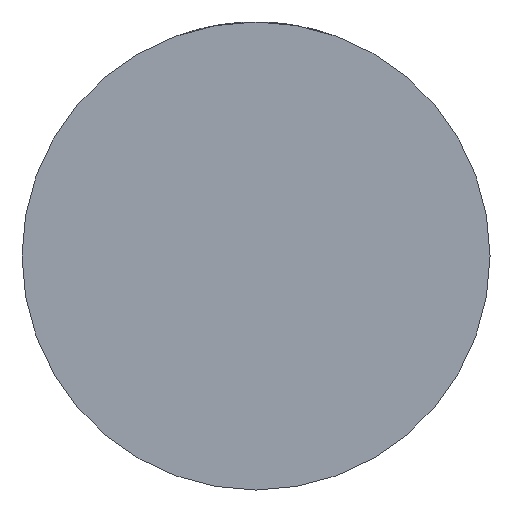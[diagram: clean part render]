
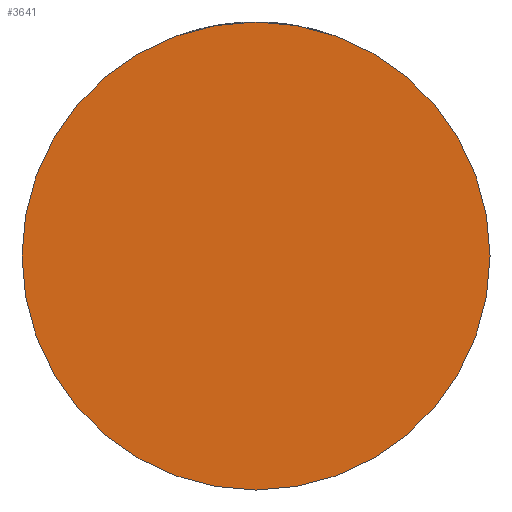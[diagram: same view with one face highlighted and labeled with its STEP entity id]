
A CAD part, front view. The second image highlights one B-rep face of the part: STEP entity #3641.
In plain terms, the highlighted planar face has unit normal (0, -1, 0).
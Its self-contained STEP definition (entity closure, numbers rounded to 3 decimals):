
#245 = VERTEX_POINT ( 'NONE', #3823 ) ;
#413 = CARTESIAN_POINT ( 'NONE',  ( 0., -26., 0. ) ) ;
#429 = CIRCLE ( 'NONE', #2090, 32.5 ) ;
#494 = VERTEX_POINT ( 'NONE', #1223 ) ;
#789 = DIRECTION ( 'NONE',  ( 1., 0., 0. ) ) ;
#1223 = CARTESIAN_POINT ( 'NONE',  ( -32.5, -26., 0. ) ) ;
#1453 = PLANE ( 'NONE',  #4210 ) ;
#1483 = EDGE_LOOP ( 'NONE', ( #2990, #2303 ) ) ;
#1602 = AXIS2_PLACEMENT_3D ( 'NONE', #4191, #3914, #2604 ) ;
#1666 = DIRECTION ( 'NONE',  ( 1., 0., 0. ) ) ;
#1732 = DIRECTION ( 'NONE',  ( 0., -1., 0. ) ) ;
#2090 = AXIS2_PLACEMENT_3D ( 'NONE', #413, #1732, #1666 ) ;
#2169 = DIRECTION ( 'NONE',  ( 0., -1., 0. ) ) ;
#2303 = ORIENTED_EDGE ( 'NONE', *, *, #3452, .T. ) ;
#2449 = FACE_OUTER_BOUND ( 'NONE', #1483, .T. ) ;
#2604 = DIRECTION ( 'NONE',  ( 1., 0., 0. ) ) ;
#2990 = ORIENTED_EDGE ( 'NONE', *, *, #3534, .T. ) ;
#3126 = CARTESIAN_POINT ( 'NONE',  ( 0., -26., 0. ) ) ;
#3452 = EDGE_CURVE ( 'NONE', #245, #494, #3456, .T. ) ;
#3456 = CIRCLE ( 'NONE', #1602, 32.5 ) ;
#3534 = EDGE_CURVE ( 'NONE', #494, #245, #429, .T. ) ;
#3641 = ADVANCED_FACE ( 'NONE', ( #2449 ), #1453, .T. ) ;
#3823 = CARTESIAN_POINT ( 'NONE',  ( 32.5, -26., 0. ) ) ;
#3914 = DIRECTION ( 'NONE',  ( 0., -1., 0. ) ) ;
#4191 = CARTESIAN_POINT ( 'NONE',  ( 0., -26., 0. ) ) ;
#4210 = AXIS2_PLACEMENT_3D ( 'NONE', #3126, #2169, #789 ) ;
